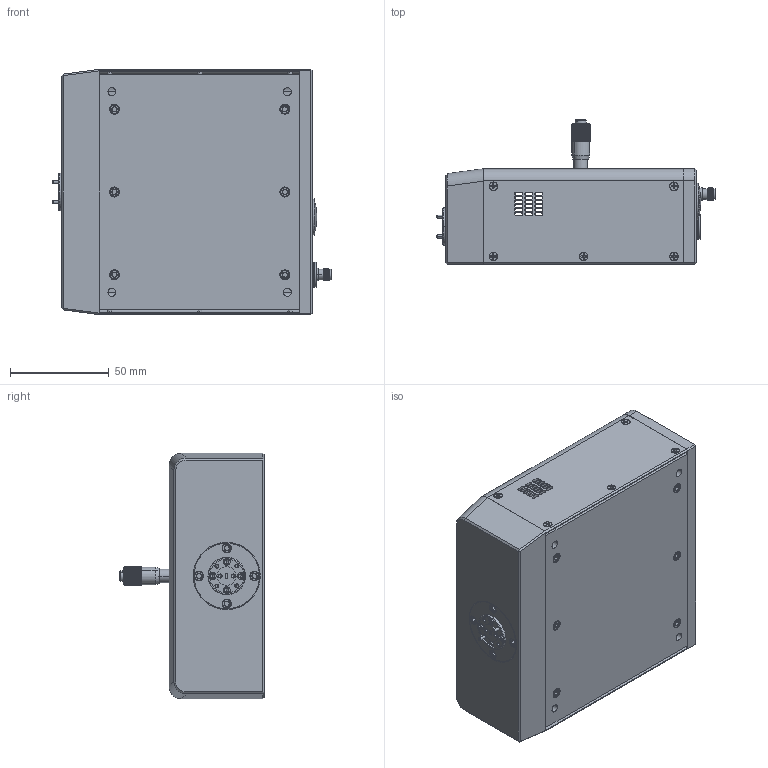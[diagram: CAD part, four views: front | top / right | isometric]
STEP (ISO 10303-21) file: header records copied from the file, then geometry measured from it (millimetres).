
FILE_DESCRIPTION (( 'STEP AP214' ), '1' );
FILE_NAME ('TE-W-A-2, Mountable.STEP', '2025-01-09T23:25:17', ( '' ), ( '' ), 'SwSTEP 2.0', 'SolidWorks 2021', '' );
FILE_SCHEMA (( 'AUTOMOTIVE_DESIGN' ));
Length unit declared in the file: inch
Products named in the file (1): TE-W-A-2, Mountable
Bounding box: 141.1 x 73.27 x 124.32 mm (x, y, z)
Volume: 254165.3 mm3; surface area: 137378.1 mm2
Topology: 42 solids, 42 shells, 5789 faces, 13241 edges, 7540 vertices
Faces by surface type: bspline 2670, cylinder 1594, plane 990, cone 494, torus 36, sphere 5
Entity records: 707910 total; most frequent: CARTESIAN_POINT 533989, ORIENTED_EDGE 26162, DIRECTION 13832, EDGE_CURVE 13081, VERTEX_POINT 7539, EDGE_LOOP 6142, UNCERTAINTY_MEASURE_WITH_UNIT 5830, LENGTH_MEASURE_WITH_UNIT 5830
